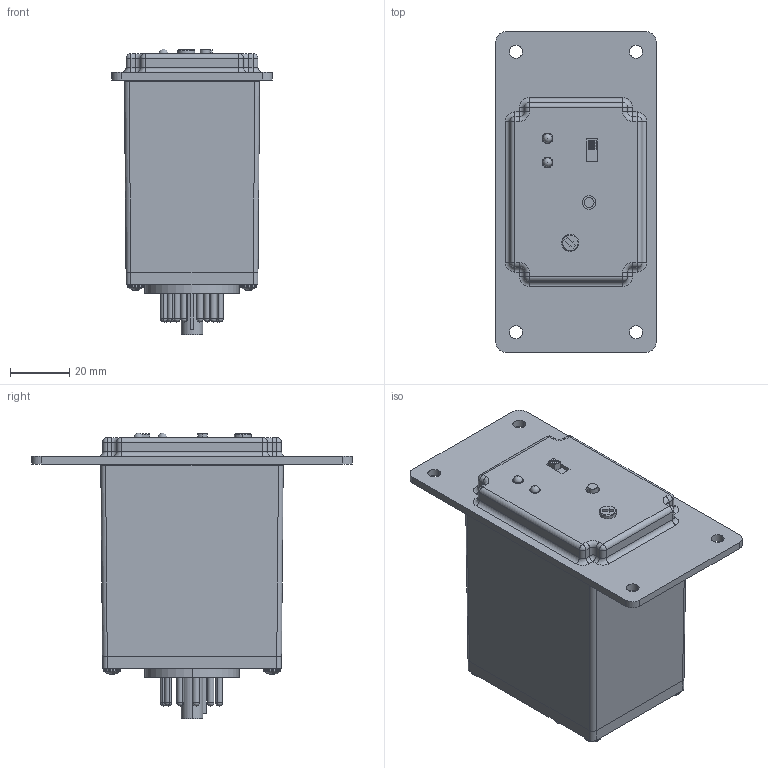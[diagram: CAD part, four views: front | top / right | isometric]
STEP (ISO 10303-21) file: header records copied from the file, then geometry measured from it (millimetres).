
FILE_DESCRIPTION (( 'STEP AP214' ), '1' );
FILE_NAME ('TCF.STEP', '2019-05-19T22:19:26', ( '' ), ( '' ), 'SwSTEP 2.0', 'SolidWorks 2019', '' );
FILE_SCHEMA (( 'AUTOMOTIVE_DESIGN' ));
Length unit declared in the file: millimetre
Products named in the file (1): TCF
Bounding box: 53.98 x 107.95 x 96.27 mm (x, y, z)
Volume: 222361.3 mm3; surface area: 36081.2 mm2
Topology: 18 solids, 18 shells, 848 faces, 2230 edges, 1428 vertices
Faces by surface type: cylinder 314, plane 271, bspline 137, torus 48, cone 42, sphere 36
Entity records: 45361 total; most frequent: CARTESIAN_POINT 19466, ORIENTED_EDGE 4320, DIRECTION 3273, EDGE_CURVE 2160, VERTEX_POINT 1402, AXIS2_PLACEMENT_3D 1165, VECTOR 943, LINE 943
